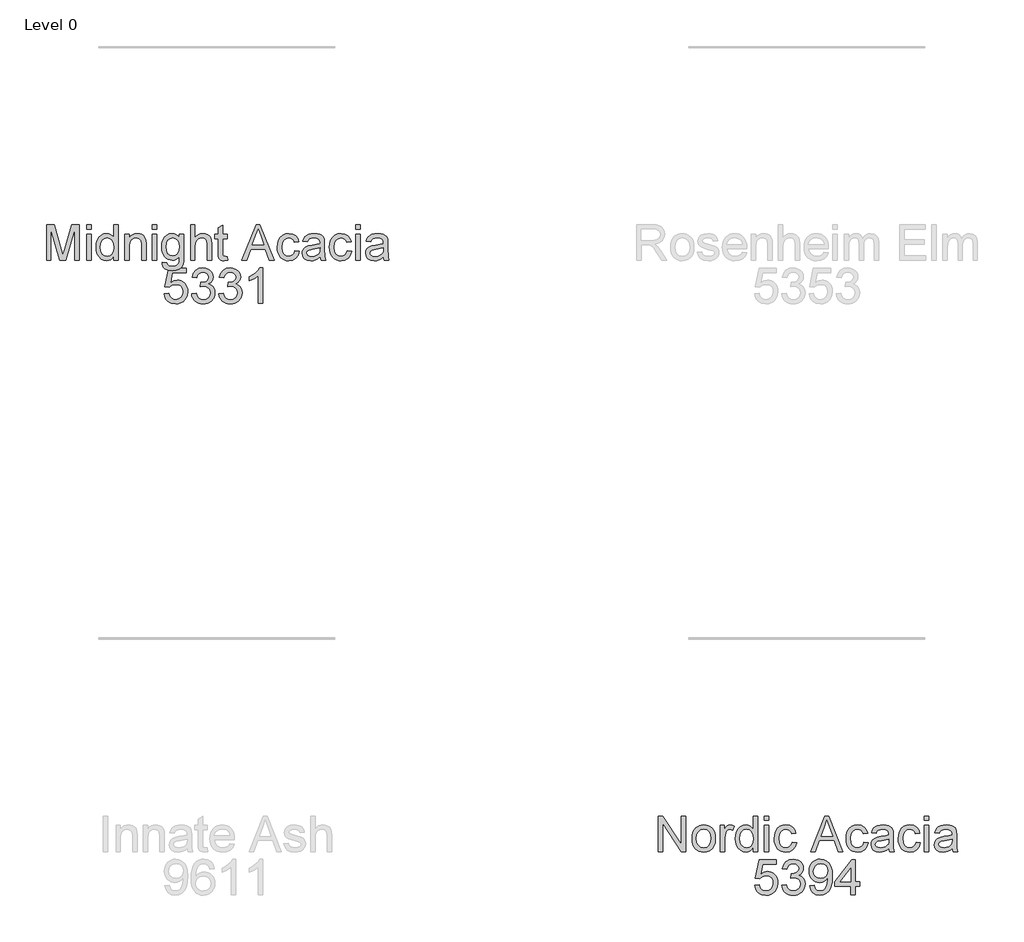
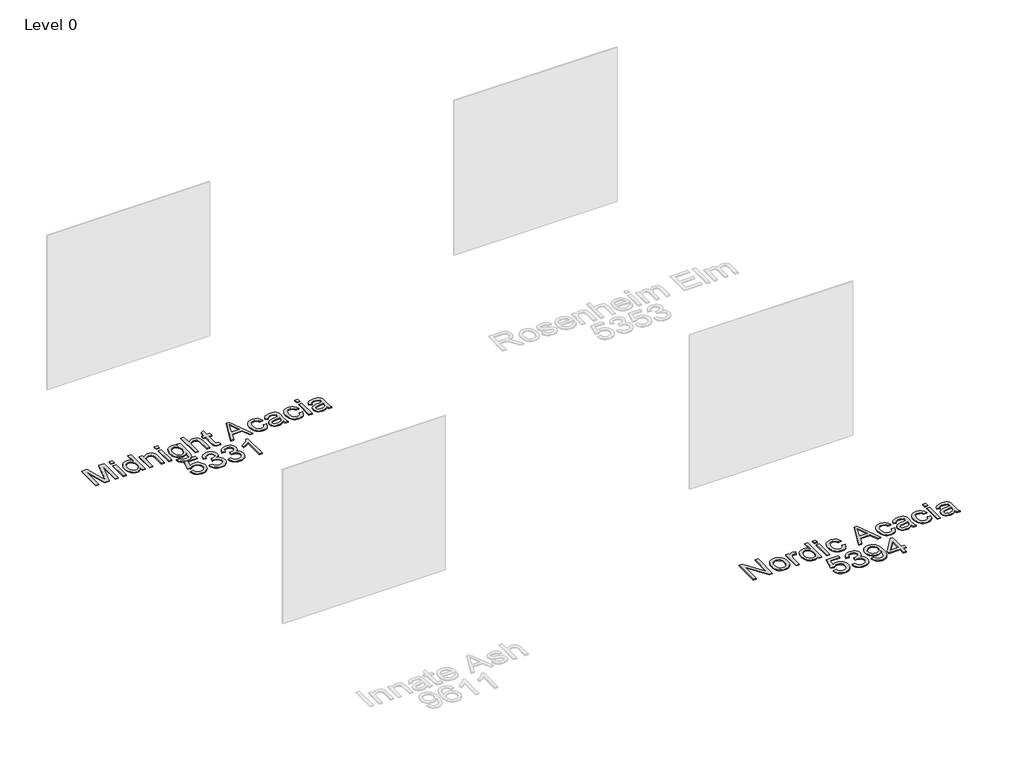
# One storey, part 2 of 16: 2 proxies.
"""IFC4 building model written with IfcOpenShell, lengths in millimetres."""

from ifc_helpers import new_model, si_unit, origin, origin_with_axes, place, context, project, spatial, polyline, outline, extrude, element, save

model = new_model("IFC4")

# Units and contexts
model_context = context("Model", 3, world=origin())
ifc_project = project(units=[si_unit("LENGTHUNIT", "METRE", prefix="MILLI")], contexts=[model_context])

# Site, building, storey
site = spatial("IfcSite", under=ifc_project)
building = spatial("IfcBuilding", under=site)
storey = spatial("IfcBuildingStorey", under=building, Name="Level 0", Elevation=0.0)

# Proxies
placement = place(None, origin())
element("IfcBuildingElementProxy", 1, Name="300mm Arial", ObjectType="300mm Arial", at=placement, inside=storey, context=model_context, shape_type="SweptSolid", body=[
    extrude(outline(polyline([(-10891.578255, -27022.860494), (-10891.578255, -26721.4915635), (-10826.7574475, -26721.4915635), (-10765.1004251, -26933.9066275), (-10752.6660136, -26978.2731962), (-10739.2015326, -26930.2278076), (-10678.5745798, -26721.4915635), (-10613.7537723, -26721.4915635), (-10613.7537723, -27022.860494), (-10651.4248886, -27022.860494), (-10651.4248886, -26759.1626798), (-10727.1350032, -27022.860494), (-10778.1970241, -27022.860494), (-10853.9071387, -26759.1626798), (-10853.9071387, -27022.860494), (-10891.578255, -27022.860494)])), origin_with_axes(), (0.0, 0.0, 1.0), 10.0),
    extrude(outline(polyline([(-10552.5382083, -26759.1626798), (-10552.5382083, -26721.4915635), (-10514.867092, -26721.4915635), (-10514.867092, -26759.1626798), (-10552.5382083, -26759.1626798)])), origin_with_axes(), (0.0, 0.0, 1.0), 10.0),
    extrude(outline(polyline([(-10552.5382083, -27022.860494), (-10552.5382083, -26801.5426857), (-10514.867092, -26801.5426857), (-10514.867092, -27022.860494), (-10552.5382083, -27022.860494)])), origin_with_axes(), (0.0, 0.0, 1.0), 10.0),
    extrude(outline(polyline([(-10321.8026209, -27022.860494), (-10321.8026209, -26987.3230932), (-10333.0736055, -27004.9308452), (-10346.7266261, -27017.507811), (-10362.7616825, -27025.0539904), (-10381.1787749, -27027.5693835), (-10405.532563, -27023.9273518), (-10427.8262119, -27013.0012565), (-10446.6985582, -26995.5544529), (-10460.7884387, -26972.350296), (-10469.5624242, -26944.3268851), (-10472.4870861, -26912.422319), (-10469.7923505, -26880.9132261), (-10461.7081437, -26852.4575538), (-10448.2436626, -26828.6739828), (-10429.4081045, -26811.181194), (-10406.6270119, -26800.4206456), (-10381.3259277, -26796.8337961), (-10362.8950397, -26799.3997731), (-10346.5978674, -26807.0977038), (-10332.7838984, -26818.8975188), (-10321.8026209, -26833.7691485), (-10321.8026209, -26721.4915635), (-10284.1315046, -26721.4915635), (-10284.1315046, -27022.860494), (-10321.8026209, -27022.860494)]), holes=[polyline([(-10434.8159698, -26912.2751662), (-10430.5669328, -26946.350236), (-10417.8198216, -26970.5844625), (-10399.2969632, -26985.069816), (-10377.7206842, -26989.8982672), (-10356.1536022, -26985.2905452), (-10338.0997933, -26971.4673793), (-10325.876914, -26948.1712519), (-10321.8026209, -26915.1446458), (-10325.9504904, -26879.037028), (-10338.3940989, -26854.0026582), (-10356.9077603, -26839.3793489), (-10379.2657885, -26834.5049125), (-10401.0627967, -26839.1862108), (-10418.9234676, -26853.230106), (-10430.8428443, -26877.3539678), (-10434.8159698, -26912.2751662)])]), origin_with_axes(), (0.0, 0.0, 1.0), 10.0),
    extrude(outline(polyline([(-10227.6248301, -27022.860494), (-10227.6248301, -26801.5426857), (-10189.9537138, -26801.5426857), (-10189.9537138, -26832.4447733), (-10176.8663118, -26816.8649708), (-10161.1485536, -26805.7365404), (-10142.8004391, -26799.0594822), (-10121.8219683, -26796.8337961), (-10103.2531246, -26798.6272209), (-10086.2477794, -26804.0074951), (-10072.0659285, -26812.303234), (-10061.9675677, -26822.8430532), (-10050.6735904, -26850.5445674), (-10048.6870277, -26886.964885), (-10048.6870277, -27022.860494), (-10086.358144, -27022.860494), (-10086.358144, -26892.0416565), (-10090.6991515, -26858.7115477), (-10096.7048251, -26848.7879309), (-10106.0398307, -26841.0900002), (-10118.0051926, -26836.1511844), (-10131.901935, -26834.5049125), (-10153.9656576, -26838.2021265), (-10172.7736246, -26849.2937687), (-10180.2899137, -26858.3482643), (-10185.6586915, -26870.7228949), (-10189.9537138, -26905.4325611), (-10189.9537138, -27022.860494), (-10227.6248301, -27022.860494)])), origin_with_axes(), (0.0, 0.0, 1.0), 10.0),
    extrude(outline(polyline([(-9996.8892427, -26759.1626798), (-9996.8892427, -26721.4915635), (-9959.2181264, -26721.4915635), (-9959.2181264, -26759.1626798), (-9996.8892427, -26759.1626798)])), origin_with_axes(), (0.0, 0.0, 1.0), 10.0),
    extrude(outline(polyline([(-9996.8892427, -27022.860494), (-9996.8892427, -26801.5426857), (-9959.2181264, -26801.5426857), (-9959.2181264, -27022.860494), (-9996.8892427, -27022.860494)])), origin_with_axes(), (0.0, 0.0, 1.0), 10.0),
    extrude(outline(polyline([(-9912.1292311, -27041.6960521), (-9874.4581148, -27046.4049417), (-9870.3010482, -27058.1771655), (-9862.2444325, -27066.2705694), (-9846.4071126, -27072.5613515), (-9825.6769622, -27074.6582789), (-9803.5672543, -27072.28544), (-9787.1229291, -27065.1669234), (-9775.7185872, -27053.7625816), (-9768.7288293, -27038.532267), (-9766.1536554, -26994.6071568), (-9778.6892344, -27006.9679918), (-9792.6779472, -27015.7971597), (-9808.119794, -27021.0946604), (-9825.0147746, -27022.860494), (-9845.6690494, -27020.8049533), (-9863.8539162, -27014.6383314), (-9879.5693752, -27004.3606281), (-9892.8154263, -26989.9718436), (-9903.3253551, -26972.708981), (-9910.832447, -26953.8090435), (-9915.3367022, -26933.2720311), (-9916.8381206, -26911.0979438), (-9914.143385, -26880.6832999), (-9906.0591781, -26852.7150712), (-9892.8706086, -26829.0142737), (-9874.8627849, -26811.4019232), (-9852.6519095, -26800.4758279), (-9826.8541846, -26796.8337961), (-9809.2372355, -26798.8939353), (-9793.2481643, -26805.0743528), (-9778.8869709, -26815.3750487), (-9766.1536554, -26829.7960229), (-9766.1536554, -26801.5426857), (-9728.4825391, -26801.5426857), (-9728.4825391, -26992.620594), (-9731.057713, -27036.7388422), (-9738.7832349, -27065.7923228), (-9752.0913661, -27085.0601423), (-9771.4143679, -27099.8214074), (-9796.329176, -27109.2023982), (-9826.4127262, -27112.3293952), (-9861.4626833, -27107.9240083), (-9889.06303, -27094.7078476), (-9899.4579956, -27084.7865301), (-9906.767351, -27072.644125), (-9910.9910961, -27058.2806323), (-9912.1292311, -27041.6960521)]), holes=[polyline([(-9879.1670043, -26908.5227699), (-9875.1478935, -26943.0760863), (-9863.0905611, -26966.8320661), (-9844.9631758, -26980.6000498), (-9822.7339062, -26985.1893777), (-9800.6701836, -26980.6276409), (-9782.4508278, -26966.9424307), (-9770.2279485, -26943.4899535), (-9766.1536554, -26909.6264159), (-9770.3475101, -26876.9676917), (-9782.9290744, -26853.4508352), (-9801.4151446, -26839.2413931), (-9823.3225174, -26834.5049125), (-9844.8344171, -26839.1678167), (-9862.8698319, -26853.1565296), (-9875.0927112, -26876.3238983), (-9879.1670043, -26908.5227699)])]), origin_with_axes(), (0.0, 0.0, 1.0), 10.0),
    extrude(outline(polyline([(-9671.9758646, -27022.860494), (-9671.9758646, -26721.4915635), (-9634.3047483, -26721.4915635), (-9634.3047483, -26832.2976205), (-9620.4677868, -26816.7821973), (-9604.929371, -26805.6997522), (-9587.689501, -26799.0502852), (-9568.7481768, -26796.8337961), (-9545.9946754, -26799.2526203), (-9526.4417473, -26806.5090926), (-9511.0458858, -26818.0329961), (-9500.7635841, -26833.2541137), (-9494.9694426, -26854.1682051), (-9493.0380622, -26882.7710302), (-9493.0380622, -27022.860494), (-9530.7091785, -27022.860494), (-9530.7091785, -26886.6705794), (-9533.7074167, -26863.0893435), (-9542.7021315, -26846.9393239), (-9557.1966821, -26837.6135153), (-9576.6944279, -26834.5049125), (-9592.6145212, -26836.6018398), (-9607.5597273, -26842.8926219), (-9619.9389564, -26852.7702535), (-9628.161119, -26865.6277292), (-9632.768841, -26882.7158479), (-9634.3047483, -26905.2854083), (-9634.3047483, -27022.860494), (-9671.9758646, -27022.860494)])), origin_with_axes(), (0.0, 0.0, 1.0), 10.0),
    extrude(outline(polyline([(-9361.1891551, -26991.4433716), (-9356.4802655, -27023.96414), (-9384.6600264, -27027.5693835), (-9402.7414264, -27026.005885), (-9416.2243016, -27021.3153896), (-9425.7524452, -27014.0865084), (-9431.969651, -27004.9078526), (-9435.3909535, -26989.1441091), (-9436.5313877, -26962.1599648), (-9436.5313877, -26839.213802), (-9464.7847249, -26839.213802), (-9464.7847249, -26801.5426857), (-9436.5313877, -26801.5426857), (-9436.5313877, -26747.758338), (-9398.8602714, -26725.6118419), (-9398.8602714, -26801.5426857), (-9361.1891551, -26801.5426857), (-9361.1891551, -26839.213802), (-9398.8602714, -26839.213802), (-9398.8602714, -26961.0563188), (-9396.8737086, -26980.4804881), (-9390.4357737, -26987.3598814), (-9377.5966921, -26989.8982672), (-9361.1891551, -26991.4433716)])), origin_with_axes(), (0.0, 0.0, 1.0), 10.0),
    extrude(outline(polyline([(-9236.1828531, -27022.860494), (-9115.8854407, -26721.4915635), (-9083.8061307, -26721.4915635), (-8963.5087183, -27022.860494), (-9003.3135502, -27022.860494), (-9037.8208813, -26928.6827032), (-9161.9442665, -26928.6827032), (-9196.3780212, -27022.860494), (-9236.1828531, -27022.860494)]), holes=[polyline([(-9148.1119035, -26891.0115869), (-9051.5796679, -26891.0115869), (-9078.7293592, -26816.9201531), (-9099.8457857, -26759.1626798), (-9118.6077675, -26810.44543), (-9148.1119035, -26891.0115869)])]), origin_with_axes(), (0.0, 0.0, 1.0), 10.0),
    extrude(outline(polyline([(-8786.7046314, -26942.8093718), (-8749.0335151, -26947.5182614), (-8759.5365461, -26981.0231141), (-8779.2734151, -27006.3425924), (-8806.3863182, -27022.2626857), (-8839.0174511, -27027.5693835), (-8860.145374, -27025.7184772), (-8879.0889975, -27020.1657584), (-8895.8483216, -27010.9112269), (-8910.4233464, -26997.9548829), (-8922.2208621, -26981.5404481), (-8930.6476591, -26961.9116444), (-8935.7037372, -26939.0684718), (-8937.3890966, -26913.0109302), (-8934.51042, -26879.4876834), (-8925.8743902, -26850.4342028), (-8911.3430514, -26826.9725286), (-8890.7784478, -26810.2247008), (-8866.1763394, -26800.1815223), (-8839.5324859, -26796.8337961), (-8807.7014963, -26801.4323211), (-8782.2532593, -26815.2278959), (-8763.9971153, -26837.4847566), (-8753.7424046, -26867.4671392), (-8791.413521, -26872.1760288), (-8798.246929, -26855.7409006), (-8808.8879157, -26843.9594797), (-8822.7478699, -26836.8685543), (-8839.2381803, -26834.5049125), (-8863.5827714, -26839.1586197), (-8882.9057732, -26853.1197414), (-8895.5149285, -26877.1424357), (-8899.7179803, -26911.9808606), (-8895.606899, -26947.2883351), (-8883.2736551, -26971.3938029), (-8864.3001412, -26985.2721511), (-8840.2682499, -26989.8982672), (-8820.7613071, -26987.0103936), (-8804.7676374, -26978.3467726), (-8793.1333693, -26963.6866751), (-8786.7046314, -26942.8093718)])), origin_with_axes(), (0.0, 0.0, 1.0), 10.0),
    extrude(outline(polyline([(-8574.8046022, -26994.6071568), (-8592.8032288, -27010.0398064), (-8611.3352843, -27020.1381672), (-8630.823833, -27025.7115794), (-8651.6919392, -27027.5693835), (-8683.1734409, -27023.0996173), (-8706.3959919, -27009.6903186), (-8720.7157985, -26989.3280501), (-8725.4890674, -26963.9993748), (-8723.6864456, -26948.3827841), (-8718.2785803, -26934.2009331), (-8709.9368561, -26922.0608273), (-8699.3326576, -26912.5694718), (-8672.9555185, -26900.2086368), (-8640.3611737, -26894.5432541), (-8601.8439288, -26888.5835657), (-8575.0253314, -26881.5938078), (-8574.8046022, -26873.2060983), (-8577.3981703, -26856.3938912), (-8585.1788745, -26845.3942195), (-8602.5796928, -26837.2272392), (-8626.8231163, -26834.5049125), (-8649.263918, -26836.3167313), (-8664.935691, -26841.7521878), (-8675.622663, -26851.8045633), (-8683.1090616, -26867.4671392), (-8720.7801779, -26862.7582497), (-8714.2410754, -26842.156858), (-8704.4830055, -26825.9700502), (-8690.5954602, -26813.590821), (-8671.6679315, -26804.4121652), (-8648.518957, -26798.7283884), (-8621.967074, -26796.8337961), (-8596.5004429, -26798.5076592), (-8576.3129184, -26803.5292485), (-8561.0918008, -26811.0800264), (-8550.5243905, -26820.3414556), (-8543.5162385, -26831.7917827), (-8538.9728959, -26845.9092543), (-8537.1334859, -26878.8714811), (-8537.1334859, -26925.7396473), (-8535.2204995, -26991.1858542), (-8527.7157068, -27022.860494), (-8565.3868231, -27022.860494), (-8574.8046022, -26994.6071568)]), holes=[polyline([(-8574.8046022, -26919.2649241), (-8635.5787078, -26930.8164188), (-8667.9891116, -26936.9232599), (-8682.6676032, -26946.8560738), (-8687.8179511, -26961.3506244), (-8685.0128509, -26972.5526311), (-8676.5975503, -26981.7312869), (-8662.7559902, -26987.8565221), (-8643.6721117, -26989.8982672), (-8623.438602, -26987.64499), (-8605.559537, -26980.8851583), (-8591.0649864, -26970.9247533), (-8580.9850197, -26959.069756), (-8576.5152535, -26946.8560738), (-8575.0253314, -26929.933502), (-8574.8046022, -26919.2649241)])]), origin_with_axes(), (0.0, 0.0, 1.0), 10.0),
    extrude(outline(polyline([(-8344.0690148, -26942.8093718), (-8306.3978985, -26947.5182614), (-8316.9009295, -26981.0231141), (-8336.6377985, -27006.3425924), (-8363.7507016, -27022.2626857), (-8396.3818345, -27027.5693835), (-8417.5097574, -27025.7184772), (-8436.4533809, -27020.1657584), (-8453.212705, -27010.9112269), (-8467.7877298, -26997.9548829), (-8479.5852455, -26981.5404481), (-8488.0120425, -26961.9116444), (-8493.0681206, -26939.0684718), (-8494.75348, -26913.0109302), (-8491.8748034, -26879.4876834), (-8483.2387736, -26850.4342028), (-8468.7074348, -26826.9725286), (-8448.1428313, -26810.2247008), (-8423.5407228, -26800.1815223), (-8396.8968693, -26796.8337961), (-8365.0658797, -26801.4323211), (-8339.6176427, -26815.2278959), (-8321.3614987, -26837.4847566), (-8311.106788, -26867.4671392), (-8348.7779044, -26872.1760288), (-8355.6113124, -26855.7409006), (-8366.2522991, -26843.9594797), (-8380.1122533, -26836.8685543), (-8396.6025637, -26834.5049125), (-8420.9471548, -26839.1586197), (-8440.2701566, -26853.1197414), (-8452.8793119, -26877.1424357), (-8457.0823637, -26911.9808606), (-8452.9712824, -26947.2883351), (-8440.6380385, -26971.3938029), (-8421.6645246, -26985.2721511), (-8397.6326333, -26989.8982672), (-8378.1256905, -26987.0103936), (-8362.1320208, -26978.3467726), (-8350.4977527, -26963.6866751), (-8344.0690148, -26942.8093718)])), origin_with_axes(), (0.0, 0.0, 1.0), 10.0),
    extrude(outline(polyline([(-8273.4356717, -26759.1626798), (-8273.4356717, -26721.4915635), (-8235.7645554, -26721.4915635), (-8235.7645554, -26759.1626798), (-8273.4356717, -26759.1626798)])), origin_with_axes(), (0.0, 0.0, 1.0), 10.0),
    extrude(outline(polyline([(-8273.4356717, -27022.860494), (-8273.4356717, -26801.5426857), (-8235.7645554, -26801.5426857), (-8235.7645554, -27022.860494), (-8273.4356717, -27022.860494)])), origin_with_axes(), (0.0, 0.0, 1.0), 10.0),
    extrude(outline(polyline([(-8037.9911948, -26994.6071568), (-8055.9898214, -27010.0398064), (-8074.5218769, -27020.1381672), (-8094.0104256, -27025.7115794), (-8114.8785318, -27027.5693835), (-8146.3600336, -27023.0996173), (-8169.5825845, -27009.6903186), (-8183.9023912, -26989.3280501), (-8188.6756601, -26963.9993748), (-8186.8730383, -26948.3827841), (-8181.4651729, -26934.2009331), (-8173.1234487, -26922.0608273), (-8162.5192502, -26912.5694718), (-8136.1421111, -26900.2086368), (-8103.5477664, -26894.5432541), (-8065.0305215, -26888.5835657), (-8038.211924, -26881.5938078), (-8037.9911948, -26873.2060983), (-8040.5847629, -26856.3938912), (-8048.3654671, -26845.3942195), (-8065.7662855, -26837.2272392), (-8090.0097089, -26834.5049125), (-8112.4505107, -26836.3167313), (-8128.1222836, -26841.7521878), (-8138.8092556, -26851.8045633), (-8146.2956542, -26867.4671392), (-8183.9667705, -26862.7582497), (-8177.4276681, -26842.156858), (-8167.6695981, -26825.9700502), (-8153.7820528, -26813.590821), (-8134.8545242, -26804.4121652), (-8111.7055496, -26798.7283884), (-8085.1536666, -26796.8337961), (-8059.6870355, -26798.5076592), (-8039.499511, -26803.5292485), (-8024.2783935, -26811.0800264), (-8013.7109831, -26820.3414556), (-8006.7028311, -26831.7917827), (-8002.1594885, -26845.9092543), (-8000.3200785, -26878.8714811), (-8000.3200785, -26925.7396473), (-7998.4070921, -26991.1858542), (-7990.9022994, -27022.860494), (-8028.5734158, -27022.860494), (-8037.9911948, -26994.6071568)]), holes=[polyline([(-8037.9911948, -26919.2649241), (-8098.7653004, -26930.8164188), (-8131.1757042, -26936.9232599), (-8145.8541958, -26946.8560738), (-8151.0045437, -26961.3506244), (-8148.1994435, -26972.5526311), (-8139.7841429, -26981.7312869), (-8125.9425828, -26987.8565221), (-8106.8587043, -26989.8982672), (-8086.6251946, -26987.64499), (-8068.7461296, -26980.8851583), (-8054.251579, -26970.9247533), (-8044.1716123, -26959.069756), (-8039.7018461, -26946.8560738), (-8038.211924, -26929.933502), (-8037.9911948, -26919.2649241)])]), origin_with_axes(), (0.0, 0.0, 1.0), 10.0),
    extrude(outline(polyline([(-9893.2936729, -27308.7338254), (-9855.6225566, -27304.0249358), (-9848.7063751, -27326.6404815), (-9836.6398456, -27342.8364863), (-9819.4781506, -27352.5761621), (-9797.2764722, -27355.8227207), (-9770.2739337, -27351.3069693), (-9750.040424, -27337.7597148), (-9737.4036774, -27316.7444558), (-9733.1914286, -27289.8246908), (-9737.136963, -27264.4776213), (-9748.9735662, -27245.0902402), (-9768.7932087, -27232.7845875), (-9796.687861, -27228.6827032), (-9814.9623991, -27230.3197781), (-9829.7604523, -27235.2310027), (-9850.9136671, -27252.2271509), (-9888.5847834, -27247.5182614), (-9855.6225566, -27092.1249066), (-9709.6469809, -27092.1249066), (-9709.6469809, -27129.7960229), (-9825.1619274, -27129.7960229), (-9841.2751588, -27212.790201), (-9814.3645908, -27196.4562404), (-9786.1664359, -27191.0115869), (-9767.8206207, -27192.6992456), (-9750.969326, -27197.7622215), (-9735.612552, -27206.2005148), (-9721.7502986, -27218.0141254), (-9710.2746796, -27232.4810848), (-9702.0778089, -27248.8794248), (-9697.1596864, -27267.2091452), (-9695.5203123, -27287.470246), (-9701.4248183, -27325.1413624), (-9708.8054508, -27341.9351754), (-9719.1383364, -27357.3678251), (-9734.7917153, -27373.1729553), (-9753.0570563, -27384.4623341), (-9773.9343596, -27391.2359613), (-9797.423625, -27393.4938371), (-9834.4233566, -27387.6904986), (-9850.1020274, -27380.4363255), (-9863.8999015, -27370.2804832), (-9875.380119, -27357.7288093), (-9884.1058201, -27343.2871418), (-9893.2936729, -27308.7338254)])), origin_with_axes(), (0.0, 0.0, 1.0), 10.0),
    extrude(outline(polyline([(-9662.5580855, -27308.7338254), (-9624.8869692, -27304.0249358), (-9616.4532745, -27327.6981422), (-9604.1016365, -27343.6826149), (-9587.22505, -27352.7876943), (-9565.2165096, -27355.8227207), (-9539.3911935, -27351.6472601), (-9519.4519894, -27339.1208782), (-9506.7048783, -27320.4324728), (-9502.4558412, -27297.7709419), (-9506.6680901, -27276.2590422), (-9519.3048366, -27258.8122386), (-9538.4347004, -27247.2515469), (-9562.1263008, -27243.397983), (-9588.5402281, -27247.5182614), (-9584.3463734, -27209.8471451), (-9578.3131086, -27210.2886035), (-9555.7435482, -27207.5846708), (-9535.5652208, -27199.4728728), (-9521.3281876, -27185.7508744), (-9516.5825098, -27166.2163404), (-9520.0222065, -27149.9467592), (-9530.3412965, -27136.7489926), (-9546.0866459, -27128.0025982), (-9565.8051208, -27125.0871334), (-9585.5603839, -27128.0301893), (-9601.7104035, -27136.8593572), (-9613.5010215, -27151.574637), (-9620.1780797, -27172.1760288), (-9657.849196, -27167.4671392), (-9646.7575538, -27133.6403898), (-9627.0206848, -27108.3852908), (-9600.0181463, -27092.6583355), (-9567.129496, -27087.4160171), (-9543.4470925, -27090.0003881), (-9521.6960696, -27097.7535011), (-9503.3571521, -27109.9855775), (-9489.9110652, -27126.0068384), (-9481.6613115, -27144.4653175), (-9478.9113935, -27164.0090485), (-9481.5233557, -27182.2192072), (-9489.3592422, -27198.7371088), (-9502.3086884, -27212.8085951), (-9520.2613298, -27223.6795081), (-9496.6800939, -27233.2076518), (-9479.2056991, -27249.4312477), (-9468.3899685, -27271.4673793), (-9464.7847249, -27298.4331295), (-9466.5873467, -27317.5445992), (-9471.995212, -27335.1477526), (-9481.0083209, -27351.2425899), (-9493.6266733, -27365.829111), (-9508.9995422, -27377.9324287), (-9526.2762004, -27386.5776555), (-9545.4566479, -27391.7647917), (-9566.5408848, -27393.4938371), (-9585.5971721, -27392.0177105), (-9602.9612023, -27387.589331), (-9618.6329753, -27380.2086985), (-9632.6124911, -27369.875813), (-9644.3341312, -27357.1976797), (-9653.232277, -27342.781304), (-9659.3069284, -27326.6266859), (-9662.5580855, -27308.7338254)])), origin_with_axes(), (0.0, 0.0, 1.0), 10.0),
    extrude(outline(polyline([(-9431.8224982, -27308.7338254), (-9394.1513818, -27304.0249358), (-9385.7176871, -27327.6981422), (-9373.3660491, -27343.6826149), (-9356.4894626, -27352.7876943), (-9334.4809222, -27355.8227207), (-9308.6556062, -27351.6472601), (-9288.716402, -27339.1208782), (-9275.9692909, -27320.4324728), (-9271.7202539, -27297.7709419), (-9275.9325027, -27276.2590422), (-9288.5692492, -27258.8122386), (-9307.699113, -27247.2515469), (-9331.3907135, -27243.397983), (-9357.8046407, -27247.5182614), (-9353.610786, -27209.8471451), (-9347.5775213, -27210.2886035), (-9325.0079609, -27207.5846708), (-9304.8296334, -27199.4728728), (-9290.5926002, -27185.7508744), (-9285.8469225, -27166.2163404), (-9289.2866191, -27149.9467592), (-9299.6057091, -27136.7489926), (-9315.3510585, -27128.0025982), (-9335.0695334, -27125.0871334), (-9354.8247966, -27128.0301893), (-9370.9748162, -27136.8593572), (-9382.7654341, -27151.574637), (-9389.4424923, -27172.1760288), (-9427.1136086, -27167.4671392), (-9416.0219665, -27133.6403898), (-9396.2850974, -27108.3852908), (-9369.282559, -27092.6583355), (-9336.3939086, -27087.4160171), (-9312.7115052, -27090.0003881), (-9290.9604822, -27097.7535011), (-9272.6215647, -27109.9855775), (-9259.1754778, -27126.0068384), (-9250.9257241, -27144.4653175), (-9248.1758062, -27164.0090485), (-9250.7877683, -27182.2192072), (-9258.6236548, -27198.7371088), (-9271.5731011, -27212.8085951), (-9289.5257424, -27223.6795081), (-9265.9445065, -27233.2076518), (-9248.4701118, -27249.4312477), (-9237.6543811, -27271.4673793), (-9234.0491375, -27298.4331295), (-9235.8517593, -27317.5445992), (-9241.2596247, -27335.1477526), (-9250.2727335, -27351.2425899), (-9262.891086, -27365.829111), (-9278.2639548, -27377.9324287), (-9295.540613, -27386.5776555), (-9314.7210606, -27391.7647917), (-9335.8052974, -27393.4938371), (-9354.8615848, -27392.0177105), (-9372.2256149, -27387.589331), (-9387.8973879, -27380.2086985), (-9401.8769037, -27369.875813), (-9413.5985438, -27357.1976797), (-9422.4966896, -27342.781304), (-9428.571341, -27326.6266859), (-9431.8224982, -27308.7338254)])), origin_with_axes(), (0.0, 0.0, 1.0), 10.0),
    extrude(outline(polyline([(-9059.8202246, -27388.7849475), (-9097.4913409, -27388.7849475), (-9097.4913409, -27153.9290818), (-9133.1758945, -27179.3497277), (-9172.8335735, -27198.3692268), (-9172.8335735, -27162.7582497), (-9143.2466641, -27146.6634124), (-9117.6144861, -27127.5151545), (-9097.4085675, -27107.1528861), (-9084.1004363, -27087.4160171), (-9059.8202246, -27087.4160171), (-9059.8202246, -27388.7849475)])), origin_with_axes(), (0.0, 0.0, 1.0), 10.0),
])
element("IfcBuildingElementProxy", 2, Name="300mm Arial", ObjectType="300mm Arial", at=placement, inside=storey, context=model_context, shape_type="SweptSolid", body=[
    extrude(outline(polyline([(-5710.2860078, -32032.860494), (-5710.2860078, -31731.4915635), (-5669.9661411, -31731.4915635), (-5512.5126472, -31970.2469784), (-5512.5126472, -31731.4915635), (-5474.8415309, -31731.4915635), (-5474.8415309, -32032.860494), (-5515.1613976, -32032.860494), (-5672.6148915, -31794.0315027), (-5672.6148915, -32032.860494), (-5710.2860078, -32032.860494)])), origin_with_axes(), (0.0, 0.0, 1.0), 10.0),
    extrude(outline(polyline([(-5423.043746, -31922.2015898), (-5421.0065994, -31893.5389839), (-5414.8951598, -31868.8403064), (-5404.709427, -31848.1055575), (-5390.4494012, -31831.334737), (-5376.0928063, -31820.6155754), (-5360.2462894, -31812.9590314), (-5342.9098504, -31808.3651049), (-5324.0834893, -31806.8337961), (-5303.3004558, -31808.698498), (-5284.5085836, -31814.2926036), (-5267.7078728, -31823.6161129), (-5252.8983232, -31836.669026), (-5240.8111004, -31853.0098843), (-5232.1773698, -31872.1972296), (-5226.9971315, -31894.2310619), (-5225.2703854, -31919.1113811), (-5228.3238059, -31957.1687735), (-5237.4840676, -31986.1394806), (-5252.4844559, -32007.8353213), (-5273.0582565, -32024.0681143), (-5297.4948181, -32034.1940662), (-5324.0834893, -32037.5693835), (-5345.1700254, -32035.7115794), (-5364.1366415, -32030.1381672), (-5380.9833376, -32020.8491468), (-5395.7101137, -32007.8445183), (-5407.6685778, -31991.3450108), (-5416.2103379, -31971.5713536), (-5421.3353939, -31948.5235466), (-5423.043746, -31922.2015898)]), holes=[polyline([(-5385.3726297, -31922.1280134), (-5381.013228, -31956.2214773), (-5367.9350231, -31980.5108861), (-5348.2533363, -31995.0514219), (-5324.0834893, -31999.8982672), (-5300.0240068, -31995.0238308), (-5280.3791082, -31980.4005215), (-5267.3009033, -31955.789216), (-5262.9415017, -31920.950791), (-5267.3284945, -31887.8506085), (-5280.4894728, -31863.8922936), (-5300.1619625, -31849.3517577), (-5324.0834893, -31844.5049125), (-5348.2533363, -31849.3333636), (-5367.9350231, -31863.8187172), (-5381.013228, -31888.0529436), (-5385.3726297, -31922.1280134)])]), origin_with_axes(), (0.0, 0.0, 1.0), 10.0),
    extrude(outline(polyline([(-5182.8903795, -32032.860494), (-5182.8903795, -31811.5426857), (-5149.9281527, -31811.5426857), (-5149.9281527, -31844.2841833), (-5137.7512587, -31825.3014723), (-5126.5308578, -31814.1178596), (-5115.2736688, -31808.654812), (-5102.9864102, -31806.8337961), (-5084.2244284, -31809.7400639), (-5065.1681411, -31818.4588672), (-5077.7497053, -31852.2304343), (-5090.9934571, -31846.4362929), (-5104.2372089, -31844.5049125), (-5115.4852009, -31846.3627165), (-5125.5375765, -31851.9361288), (-5133.6585715, -31860.8020848), (-5139.1124221, -31872.5375205), (-5143.6925529, -31893.5803706), (-5145.2192632, -31916.5362071), (-5145.2192632, -32032.860494), (-5182.8903795, -32032.860494)])), origin_with_axes(), (0.0, 0.0, 1.0), 10.0),
    extrude(outline(polyline([(-4905.0658967, -32032.860494), (-4905.0658967, -31997.3230932), (-4916.3368814, -32014.9308452), (-4929.9899019, -32027.507811), (-4946.0249584, -32035.0539904), (-4964.4420508, -32037.5693835), (-4988.7958389, -32033.9273518), (-5011.0894878, -32023.0012565), (-5029.9618341, -32005.5544529), (-5044.0517145, -31982.350296), (-5052.8257001, -31954.3268851), (-5055.750362, -31922.422319), (-5053.0556264, -31890.9132261), (-5044.9714195, -31862.4575538), (-5031.5069385, -31838.6739828), (-5012.6713803, -31821.181194), (-4989.8902878, -31810.4206456), (-4964.5892036, -31806.8337961), (-4946.1583156, -31809.3997731), (-4929.8611432, -31817.0977038), (-4916.0471743, -31828.8975188), (-4905.0658967, -31843.7691485), (-4905.0658967, -31731.4915635), (-4867.3947804, -31731.4915635), (-4867.3947804, -32032.860494), (-4905.0658967, -32032.860494)]), holes=[polyline([(-5018.0792457, -31922.2751662), (-5013.8302086, -31956.350236), (-5001.0830975, -31980.5844625), (-4982.560239, -31995.069816), (-4960.98396, -31999.8982672), (-4939.416878, -31995.2905452), (-4921.3630691, -31981.4673793), (-4909.1401898, -31958.1712519), (-4905.0658967, -31925.1446458), (-4909.2137662, -31889.037028), (-4921.6573747, -31864.0026582), (-4940.1710361, -31849.3793489), (-4962.5290644, -31844.5049125), (-4984.3260726, -31849.1862108), (-5002.1867435, -31863.230106), (-5014.1061201, -31887.3539678), (-5018.0792457, -31922.2751662)])]), origin_with_axes(), (0.0, 0.0, 1.0), 10.0),
    extrude(outline(polyline([(-4810.888106, -31769.1626798), (-4810.888106, -31731.4915635), (-4773.2169897, -31731.4915635), (-4773.2169897, -31769.1626798), (-4810.888106, -31769.1626798)])), origin_with_axes(), (0.0, 0.0, 1.0), 10.0),
    extrude(outline(polyline([(-4810.888106, -32032.860494), (-4810.888106, -31811.5426857), (-4773.2169897, -31811.5426857), (-4773.2169897, -32032.860494), (-4810.888106, -32032.860494)])), origin_with_axes(), (0.0, 0.0, 1.0), 10.0),
    extrude(outline(polyline([(-4575.4436291, -31952.8093718), (-4537.7725128, -31957.5182614), (-4548.2755437, -31991.0231141), (-4568.0124128, -32016.3425924), (-4595.1253158, -32032.2626857), (-4627.7564488, -32037.5693835), (-4648.8843716, -32035.7184772), (-4667.8279951, -32030.1657584), (-4684.5873193, -32020.9112269), (-4699.162344, -32007.9548829), (-4710.9598598, -31991.5404481), (-4719.3866567, -31971.9116444), (-4724.4427349, -31949.0684718), (-4726.1280943, -31923.0109302), (-4723.2494177, -31889.4876834), (-4714.6133878, -31860.4342028), (-4700.082049, -31836.9725286), (-4679.5174455, -31820.2247008), (-4654.9153371, -31810.1815223), (-4628.2714836, -31806.8337961), (-4596.4404939, -31811.4323211), (-4570.9922569, -31825.2278959), (-4552.7361129, -31847.4847566), (-4542.4814023, -31877.4671392), (-4580.1525186, -31882.1760288), (-4586.9859267, -31865.7409006), (-4597.6269134, -31853.9594797), (-4611.4868675, -31846.8685543), (-4627.977178, -31844.5049125), (-4652.321769, -31849.1586197), (-4671.6447708, -31863.1197414), (-4684.2539262, -31887.1424357), (-4688.456978, -31921.9808606), (-4684.3458967, -31957.2883351), (-4672.0126528, -31981.3938029), (-4653.0391389, -31995.2721511), (-4629.0072476, -31999.8982672), (-4609.5003048, -31997.0103936), (-4593.506635, -31988.3467726), (-4581.8723669, -31973.6866751), (-4575.4436291, -31952.8093718)])), origin_with_axes(), (0.0, 0.0, 1.0), 10.0),
    extrude(outline(polyline([(-4417.4751003, -32032.860494), (-4297.1776879, -31731.4915635), (-4265.0983779, -31731.4915635), (-4144.8009655, -32032.860494), (-4184.6057974, -32032.860494), (-4219.1131285, -31938.6827032), (-4343.2365137, -31938.6827032), (-4377.6702685, -32032.860494), (-4417.4751003, -32032.860494)]), holes=[polyline([(-4329.4041507, -31901.0115869), (-4232.8719152, -31901.0115869), (-4260.0216064, -31826.9201531), (-4281.1380329, -31769.1626798), (-4299.9000147, -31820.44543), (-4329.4041507, -31901.0115869)])]), origin_with_axes(), (0.0, 0.0, 1.0), 10.0),
    extrude(outline(polyline([(-3967.9968786, -31952.8093718), (-3930.3257623, -31957.5182614), (-3940.8287933, -31991.0231141), (-3960.5656623, -32016.3425924), (-3987.6785654, -32032.2626857), (-4020.3096983, -32037.5693835), (-4041.4376212, -32035.7184772), (-4060.3812447, -32030.1657584), (-4077.1405688, -32020.9112269), (-4091.7155936, -32007.9548829), (-4103.5131093, -31991.5404481), (-4111.9399063, -31971.9116444), (-4116.9959845, -31949.0684718), (-4118.6813439, -31923.0109302), (-4115.8026672, -31889.4876834), (-4107.1666374, -31860.4342028), (-4092.6352986, -31836.9725286), (-4072.0706951, -31820.2247008), (-4047.4685866, -31810.1815223), (-4020.8247331, -31806.8337961), (-3988.9937435, -31811.4323211), (-3963.5455065, -31825.2278959), (-3945.2893625, -31847.4847566), (-3935.0346519, -31877.4671392), (-3972.7057682, -31882.1760288), (-3979.5391762, -31865.7409006), (-3990.1801629, -31853.9594797), (-4004.0401171, -31846.8685543), (-4020.5304275, -31844.5049125), (-4044.8750186, -31849.1586197), (-4064.1980204, -31863.1197414), (-4076.8071758, -31887.1424357), (-4081.0102276, -31921.9808606), (-4076.8991463, -31957.2883351), (-4064.5659024, -31981.3938029), (-4045.5923885, -31995.2721511), (-4021.5604971, -31999.8982672), (-4002.0535543, -31997.0103936), (-3986.0598846, -31988.3467726), (-3974.4256165, -31973.6866751), (-3967.9968786, -31952.8093718)])), origin_with_axes(), (0.0, 0.0, 1.0), 10.0),
    extrude(outline(polyline([(-3756.0968494, -32004.6071568), (-3774.095476, -32020.0398064), (-3792.6275315, -32030.1381672), (-3812.1160802, -32035.7115794), (-3832.9841864, -32037.5693835), (-3864.4656881, -32033.0996173), (-3887.6882391, -32019.6903186), (-3902.0080458, -31999.3280501), (-3906.7813146, -31973.9993748), (-3904.9786929, -31958.3827841), (-3899.5708275, -31944.2009331), (-3891.2291033, -31932.0608273), (-3880.6249048, -31922.5694718), (-3854.2477657, -31910.2086368), (-3821.653421, -31904.5432541), (-3783.1361761, -31898.5835657), (-3756.3175786, -31891.5938078), (-3756.0968494, -31883.2060983), (-3758.6904175, -31866.3938912), (-3766.4711217, -31855.3942195), (-3783.87194, -31847.2272392), (-3808.1153635, -31844.5049125), (-3830.5561652, -31846.3167313), (-3846.2279382, -31851.7521878), (-3856.9149102, -31861.8045633), (-3864.4013088, -31877.4671392), (-3902.0724251, -31872.7582497), (-3895.5333226, -31852.156858), (-3885.7752527, -31835.9700502), (-3871.8877074, -31823.590821), (-3852.9601787, -31814.4121652), (-3829.8112042, -31808.7283884), (-3803.2593212, -31806.8337961), (-3777.7926901, -31808.5076592), (-3757.6051656, -31813.5292485), (-3742.384048, -31821.0800264), (-3731.8166377, -31830.3414556), (-3724.8084857, -31841.7917827), (-3720.2651431, -31855.9092543), (-3718.4257331, -31888.8714811), (-3718.4257331, -31935.7396473), (-3716.5127467, -32001.1858542), (-3709.007954, -32032.860494), (-3746.6790703, -32032.860494), (-3756.0968494, -32004.6071568)]), holes=[polyline([(-3756.0968494, -31929.2649241), (-3816.870955, -31940.8164188), (-3849.2813588, -31946.9232599), (-3863.9598504, -31956.8560738), (-3869.1101983, -31971.3506244), (-3866.3050981, -31982.5526311), (-3857.8897975, -31991.7312869), (-3844.0482374, -31997.8565221), (-3824.9643589, -31999.8982672), (-3804.7308492, -31997.64499), (-3786.8517842, -31990.8851583), (-3772.3572336, -31980.9247533), (-3762.2772669, -31969.069756), (-3757.8075007, -31956.8560738), (-3756.3175786, -31939.933502), (-3756.0968494, -31929.2649241)])]), origin_with_axes(), (0.0, 0.0, 1.0), 10.0),
    extrude(outline(polyline([(-3525.361262, -31952.8093718), (-3487.6901457, -31957.5182614), (-3498.1931767, -31991.0231141), (-3517.9300457, -32016.3425924), (-3545.0429488, -32032.2626857), (-3577.6740818, -32037.5693835), (-3598.8020046, -32035.7184772), (-3617.7456281, -32030.1657584), (-3634.5049522, -32020.9112269), (-3649.079977, -32007.9548829), (-3660.8774927, -31991.5404481), (-3669.3042897, -31971.9116444), (-3674.3603679, -31949.0684718), (-3676.0457273, -31923.0109302), (-3673.1670507, -31889.4876834), (-3664.5310208, -31860.4342028), (-3649.999682, -31836.9725286), (-3629.4350785, -31820.2247008), (-3604.83297, -31810.1815223), (-3578.1891165, -31806.8337961), (-3546.3581269, -31811.4323211), (-3520.9098899, -31825.2278959), (-3502.6537459, -31847.4847566), (-3492.3990353, -31877.4671392), (-3530.0701516, -31882.1760288), (-3536.9035596, -31865.7409006), (-3547.5445463, -31853.9594797), (-3561.4045005, -31846.8685543), (-3577.894811, -31844.5049125), (-3602.239402, -31849.1586197), (-3621.5624038, -31863.1197414), (-3634.1715592, -31887.1424357), (-3638.374611, -31921.9808606), (-3634.2635297, -31957.2883351), (-3621.9302858, -31981.3938029), (-3602.9567719, -31995.2721511), (-3578.9248805, -31999.8982672), (-3559.4179377, -31997.0103936), (-3543.424268, -31988.3467726), (-3531.7899999, -31973.6866751), (-3525.361262, -31952.8093718)])), origin_with_axes(), (0.0, 0.0, 1.0), 10.0),
    extrude(outline(polyline([(-3454.727919, -31769.1626798), (-3454.727919, -31731.4915635), (-3417.0568027, -31731.4915635), (-3417.0568027, -31769.1626798), (-3454.727919, -31769.1626798)])), origin_with_axes(), (0.0, 0.0, 1.0), 10.0),
    extrude(outline(polyline([(-3454.727919, -32032.860494), (-3454.727919, -31811.5426857), (-3417.0568027, -31811.5426857), (-3417.0568027, -32032.860494), (-3454.727919, -32032.860494)])), origin_with_axes(), (0.0, 0.0, 1.0), 10.0),
    extrude(outline(polyline([(-3219.2834421, -32004.6071568), (-3237.2820687, -32020.0398064), (-3255.8141242, -32030.1381672), (-3275.3026729, -32035.7115794), (-3296.170779, -32037.5693835), (-3327.6522808, -32033.0996173), (-3350.8748317, -32019.6903186), (-3365.1946384, -31999.3280501), (-3369.9679073, -31973.9993748), (-3368.1652855, -31958.3827841), (-3362.7574202, -31944.2009331), (-3354.4156959, -31932.0608273), (-3343.8114974, -31922.5694718), (-3317.4343584, -31910.2086368), (-3284.8400136, -31904.5432541), (-3246.3227687, -31898.5835657), (-3219.5041712, -31891.5938078), (-3219.2834421, -31883.2060983), (-3221.8770101, -31866.3938912), (-3229.6577143, -31855.3942195), (-3247.0585327, -31847.2272392), (-3271.3019562, -31844.5049125), (-3293.7427579, -31846.3167313), (-3309.4145309, -31851.7521878), (-3320.1015028, -31861.8045633), (-3327.5879014, -31877.4671392), (-3365.2590177, -31872.7582497), (-3358.7199153, -31852.156858), (-3348.9618454, -31835.9700502), (-3335.0743, -31823.590821), (-3316.1467714, -31814.4121652), (-3292.9977968, -31808.7283884), (-3266.4459138, -31806.8337961), (-3240.9792827, -31808.5076592), (-3220.7917582, -31813.5292485), (-3205.5706407, -31821.0800264), (-3195.0032304, -31830.3414556), (-3187.9950784, -31841.7917827), (-3183.4517357, -31855.9092543), (-3181.6123257, -31888.8714811), (-3181.6123257, -31935.7396473), (-3179.6993394, -32001.1858542), (-3172.1945467, -32032.860494), (-3209.865663, -32032.860494), (-3219.2834421, -32004.6071568)]), holes=[polyline([(-3219.2834421, -31929.2649241), (-3280.0575477, -31940.8164188), (-3312.4679514, -31946.9232599), (-3327.146443, -31956.8560738), (-3332.296791, -31971.3506244), (-3329.4916908, -31982.5526311), (-3321.0763901, -31991.7312869), (-3307.23483, -31997.8565221), (-3288.1509515, -31999.8982672), (-3267.9174418, -31997.64499), (-3250.0383768, -31990.8851583), (-3235.5438262, -31980.9247533), (-3225.4638596, -31969.069756), (-3220.9940933, -31956.8560738), (-3219.5041712, -31939.933502), (-3219.2834421, -31929.2649241)])]), origin_with_axes(), (0.0, 0.0, 1.0), 10.0),
    extrude(outline(polyline([(-4893.2936729, -32318.7338254), (-4855.6225566, -32314.0249358), (-4848.7063751, -32336.6404815), (-4836.6398456, -32352.8364863), (-4819.4781506, -32362.5761621), (-4797.2764722, -32365.8227207), (-4770.2739337, -32361.3069693), (-4750.040424, -32347.7597148), (-4737.4036774, -32326.7444558), (-4733.1914286, -32299.8246908), (-4737.136963, -32274.4776213), (-4748.9735662, -32255.0902402), (-4768.7932087, -32242.7845875), (-4796.687861, -32238.6827032), (-4814.9623991, -32240.3197781), (-4829.7604523, -32245.2310027), (-4850.9136671, -32262.2271509), (-4888.5847834, -32257.5182614), (-4855.6225566, -32102.1249066), (-4709.6469809, -32102.1249066), (-4709.6469809, -32139.7960229), (-4825.1619274, -32139.7960229), (-4841.2751588, -32222.790201), (-4814.3645908, -32206.4562404), (-4786.1664359, -32201.0115869), (-4767.8206207, -32202.6992456), (-4750.969326, -32207.7622215), (-4735.612552, -32216.2005148), (-4721.7502986, -32228.0141254), (-4710.2746796, -32242.4810848), (-4702.0778089, -32258.8794248), (-4697.1596864, -32277.2091452), (-4695.5203123, -32297.470246), (-4701.4248183, -32335.1413624), (-4708.8054508, -32351.9351754), (-4719.1383364, -32367.3678251), (-4734.7917153, -32383.1729553), (-4753.0570563, -32394.4623341), (-4773.9343596, -32401.2359613), (-4797.423625, -32403.4938371), (-4834.4233566, -32397.6904986), (-4850.1020274, -32390.4363255), (-4863.8999015, -32380.2804832), (-4875.380119, -32367.7288093), (-4884.1058201, -32353.2871418), (-4893.2936729, -32318.7338254)])), origin_with_axes(), (0.0, 0.0, 1.0), 10.0),
    extrude(outline(polyline([(-4662.5580855, -32318.7338254), (-4624.8869692, -32314.0249358), (-4616.4532745, -32337.6981422), (-4604.1016365, -32353.6826149), (-4587.22505, -32362.7876943), (-4565.2165096, -32365.8227207), (-4539.3911935, -32361.6472601), (-4519.4519894, -32349.1208782), (-4506.7048783, -32330.4324728), (-4502.4558412, -32307.7709419), (-4506.6680901, -32286.2590422), (-4519.3048366, -32268.8122386), (-4538.4347004, -32257.2515469), (-4562.1263008, -32253.397983), (-4588.5402281, -32257.5182614), (-4584.3463734, -32219.8471451), (-4578.3131086, -32220.2886035), (-4555.7435482, -32217.5846708), (-4535.5652208, -32209.4728728), (-4521.3281876, -32195.7508744), (-4516.5825098, -32176.2163404), (-4520.0222065, -32159.9467592), (-4530.3412965, -32146.7489926), (-4546.0866459, -32138.0025982), (-4565.8051208, -32135.0871334), (-4585.5603839, -32138.0301893), (-4601.7104035, -32146.8593572), (-4613.5010215, -32161.574637), (-4620.1780797, -32182.1760288), (-4657.849196, -32177.4671392), (-4646.7575538, -32143.6403898), (-4627.0206848, -32118.3852908), (-4600.0181463, -32102.6583355), (-4567.129496, -32097.4160171), (-4543.4470925, -32100.0003881), (-4521.6960696, -32107.7535011), (-4503.3571521, -32119.9855775), (-4489.9110652, -32136.0068384), (-4481.6613115, -32154.4653175), (-4478.9113935, -32174.0090485), (-4481.5233557, -32192.2192072), (-4489.3592422, -32208.7371088), (-4502.3086884, -32222.8085951), (-4520.2613298, -32233.6795081), (-4496.6800939, -32243.2076518), (-4479.2056991, -32259.4312477), (-4468.3899685, -32281.4673793), (-4464.7847249, -32308.4331295), (-4466.5873467, -32327.5445992), (-4471.995212, -32345.1477526), (-4481.0083209, -32361.2425899), (-4493.6266733, -32375.829111), (-4508.9995422, -32387.9324287), (-4526.2762004, -32396.5776555), (-4545.4566479, -32401.7647917), (-4566.5408848, -32403.4938371), (-4585.5971721, -32402.0177105), (-4602.9612023, -32397.589331), (-4618.6329753, -32390.2086985), (-4632.6124911, -32379.875813), (-4644.3341312, -32367.1976797), (-4653.232277, -32352.781304), (-4659.3069284, -32336.6266859), (-4662.5580855, -32318.7338254)])), origin_with_axes(), (0.0, 0.0, 1.0), 10.0),
    extrude(outline(polyline([(-4427.1136086, -32323.4427149), (-4389.4424923, -32318.7338254), (-4383.0045574, -32340.1169663), (-4372.5199205, -32354.6758963), (-4358.2460991, -32363.0360146), (-4340.4406106, -32365.8227207), (-4324.4653349, -32364.029296), (-4309.9431932, -32358.6490218), (-4297.8766637, -32350.2705094), (-4289.268225, -32339.4823699), (-4276.9441782, -32306.7408723), (-4271.4995247, -32263.0364913), (-4271.7202539, -32255.6788514), (-4284.7708676, -32271.6081418), (-4301.8497893, -32284.2264942), (-4321.724614, -32292.4486568), (-4343.1629373, -32295.1893777), (-4361.0580971, -32293.5155146), (-4377.5139186, -32288.4939254), (-4392.5304018, -32280.12461), (-4406.1075467, -32268.4075684), (-4417.357838, -32253.9544045), (-4425.3937603, -32237.3767221), (-4430.2153137, -32218.6745212), (-4431.8224982, -32197.8478018), (-4430.1371388, -32176.326705), (-4425.0810606, -32157.0129003), (-4416.6542636, -32139.9063875), (-4404.8567479, -32125.0071667), (-4390.5208464, -32112.9360387), (-4374.4788922, -32104.3138045), (-4356.7308852, -32099.1404639), (-4337.2768254, -32097.4160171), (-4309.179838, -32101.3523544), (-4283.6028423, -32113.1613665), (-4262.2105043, -32132.254442), (-4246.66749, -32158.0429699), (-4237.2037257, -32193.6907352), (-4234.0491375, -32242.3615232), (-4237.1945286, -32293.96617), (-4246.6307018, -32333.8537754), (-4262.2748836, -32363.8269609), (-4284.0443007, -32385.6883485), (-4311.0008539, -32399.0424649), (-4342.2064441, -32403.4938371), (-4374.4145128, -32398.2423216), (-4400.1110702, -32382.4877751), (-4418.0821056, -32357.2234791), (-4427.1136086, -32323.4427149)]), holes=[polyline([(-4271.7202539, -32196.964885), (-4275.7853499, -32171.4338745), (-4287.980638, -32151.788976), (-4306.9081667, -32139.262594), (-4331.1699843, -32135.0871334), (-4356.3331127, -32139.5844908), (-4376.4930461, -32153.0765629), (-4389.7367979, -32173.7239399), (-4394.1513818, -32199.6872117), (-4389.9759212, -32222.964945), (-4377.4495393, -32241.4418182), (-4357.7862466, -32253.4991506), (-4332.2000539, -32257.5182614), (-4308.1313743, -32253.4991506), (-4288.7531902, -32241.4418182), (-4275.9784879, -32222.2843633), (-4271.7202539, -32196.964885)])]), origin_with_axes(), (0.0, 0.0, 1.0), 10.0),
    extrude(outline(polyline([(-4078.6557828, -32398.7849475), (-4078.6557828, -32328.1516044), (-4215.2135794, -32328.1516044), (-4215.2135794, -32290.4804881), (-4069.2380037, -32102.1249066), (-4040.9846665, -32102.1249066), (-4040.9846665, -32290.4804881), (-4003.3135502, -32290.4804881), (-4003.3135502, -32328.1516044), (-4040.9846665, -32328.1516044), (-4040.9846665, -32398.7849475), (-4078.6557828, -32398.7849475)]), holes=[polyline([(-4078.6557828, -32290.4804881), (-4078.6557828, -32174.0826249), (-4168.860448, -32290.4804881), (-4078.6557828, -32290.4804881)])]), origin_with_axes(), (0.0, 0.0, 1.0), 10.0),
])

save(model, "model.ifc")
